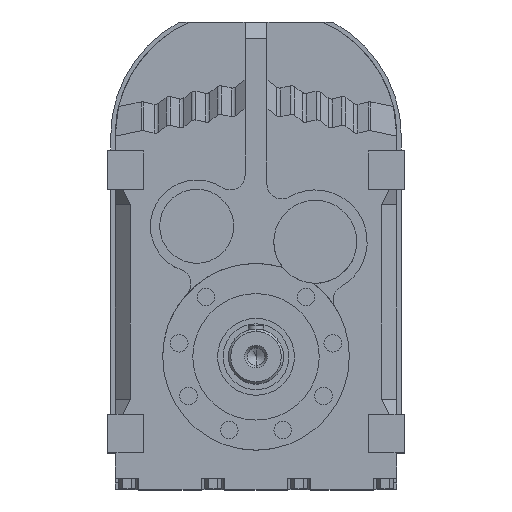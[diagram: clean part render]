
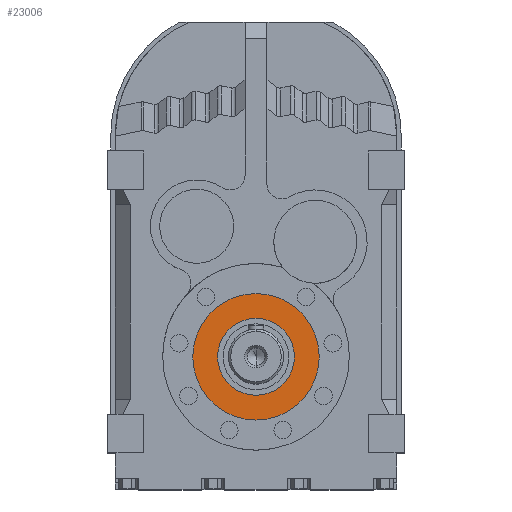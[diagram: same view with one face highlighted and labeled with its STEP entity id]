
A CAD part, top view. The second image highlights one B-rep face of the part: STEP entity #23006.
In plain terms, the highlighted planar face has unit normal (0, 0, 1).
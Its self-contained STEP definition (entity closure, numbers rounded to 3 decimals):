
#14800 = CYLINDRICAL_SURFACE('',#14801,57.6);
#14801 = AXIS2_PLACEMENT_3D('',#14802,#14803,#14804);
#14802 = CARTESIAN_POINT('',(0.,-200.,110.123));
#14803 = DIRECTION('',(0.,0.,1.));
#14804 = DIRECTION('',(1.,0.,0.));
#14826 = CYLINDRICAL_SURFACE('',#14827,57.6);
#14827 = AXIS2_PLACEMENT_3D('',#14828,#14829,#14830);
#14828 = CARTESIAN_POINT('',(0.,-200.,110.123));
#14829 = DIRECTION('',(0.,0.,1.));
#14830 = DIRECTION('',(1.,0.,0.));
#20009 = VERTEX_POINT('',#20010);
#20010 = CARTESIAN_POINT('',(-57.6,-200.,187.5));
#20031 = VERTEX_POINT('',#20032);
#20032 = CARTESIAN_POINT('',(57.6,-200.,187.5));
#20051 = EDGE_CURVE('',#20031,#20009,#20052,.T.);
#20052 = SURFACE_CURVE('',#20053,(#20058,#20064),.PCURVE_S1.);
#20053 = CIRCLE('',#20054,57.6);
#20054 = AXIS2_PLACEMENT_3D('',#20055,#20056,#20057);
#20055 = CARTESIAN_POINT('',(0.,-200.,187.5));
#20056 = DIRECTION('',(0.,0.,1.));
#20057 = DIRECTION('',(1.,0.,0.));
#20058 = PCURVE('',#14800,#20059);
#20059 = DEFINITIONAL_REPRESENTATION('',(#20060),#20063);
#20060 = B_SPLINE_CURVE_WITH_KNOTS('',1,(#20061,#20062),.UNSPECIFIED.,
  .F.,.F.,(2,2),(0.,3.142),.PIECEWISE_BEZIER_KNOTS.);
#20061 = CARTESIAN_POINT('',(0.,77.377));
#20062 = CARTESIAN_POINT('',(3.142,77.377));
#20063 = ( GEOMETRIC_REPRESENTATION_CONTEXT(2) 
PARAMETRIC_REPRESENTATION_CONTEXT() REPRESENTATION_CONTEXT('2D SPACE',''
  ) );
#20064 = PCURVE('',#20065,#20070);
#20065 = PLANE('',#20066);
#20066 = AXIS2_PLACEMENT_3D('',#20067,#20068,#20069);
#20067 = CARTESIAN_POINT('',(0.,-142.4,187.5));
#20068 = DIRECTION('',(0.,0.,1.));
#20069 = DIRECTION('',(1.,0.,0.));
#20070 = DEFINITIONAL_REPRESENTATION('',(#20071),#20075);
#20071 = CIRCLE('',#20072,57.6);
#20072 = AXIS2_PLACEMENT_2D('',#20073,#20074);
#20073 = CARTESIAN_POINT('',(0.,-57.6));
#20074 = DIRECTION('',(1.,0.));
#20075 = ( GEOMETRIC_REPRESENTATION_CONTEXT(2) 
PARAMETRIC_REPRESENTATION_CONTEXT() REPRESENTATION_CONTEXT('2D SPACE',''
  ) );
#20541 = EDGE_CURVE('',#20009,#20031,#20542,.T.);
#20542 = SURFACE_CURVE('',#20543,(#20548,#20554),.PCURVE_S1.);
#20543 = CIRCLE('',#20544,57.6);
#20544 = AXIS2_PLACEMENT_3D('',#20545,#20546,#20547);
#20545 = CARTESIAN_POINT('',(0.,-200.,187.5));
#20546 = DIRECTION('',(0.,0.,1.));
#20547 = DIRECTION('',(1.,0.,0.));
#20548 = PCURVE('',#14826,#20549);
#20549 = DEFINITIONAL_REPRESENTATION('',(#20550),#20553);
#20550 = B_SPLINE_CURVE_WITH_KNOTS('',1,(#20551,#20552),.UNSPECIFIED.,
  .F.,.F.,(2,2),(3.142,6.283),.PIECEWISE_BEZIER_KNOTS.);
#20551 = CARTESIAN_POINT('',(3.142,77.377));
#20552 = CARTESIAN_POINT('',(6.283,77.377));
#20553 = ( GEOMETRIC_REPRESENTATION_CONTEXT(2) 
PARAMETRIC_REPRESENTATION_CONTEXT() REPRESENTATION_CONTEXT('2D SPACE',''
  ) );
#20554 = PCURVE('',#20065,#20555);
#20555 = DEFINITIONAL_REPRESENTATION('',(#20556),#20560);
#20556 = CIRCLE('',#20557,57.6);
#20557 = AXIS2_PLACEMENT_2D('',#20558,#20559);
#20558 = CARTESIAN_POINT('',(0.,-57.6));
#20559 = DIRECTION('',(1.,0.));
#20560 = ( GEOMETRIC_REPRESENTATION_CONTEXT(2) 
PARAMETRIC_REPRESENTATION_CONTEXT() REPRESENTATION_CONTEXT('2D SPACE',''
  ) );
#23006 = ADVANCED_FACE('',(#23007,#23011),#20065,.T.);
#23007 = FACE_BOUND('',#23008,.T.);
#23008 = EDGE_LOOP('',(#23009,#23010));
#23009 = ORIENTED_EDGE('',*,*,#20051,.T.);
#23010 = ORIENTED_EDGE('',*,*,#20541,.T.);
#23011 = FACE_BOUND('',#23012,.T.);
#23012 = EDGE_LOOP('',(#23013,#23043));
#23013 = ORIENTED_EDGE('',*,*,#23014,.F.);
#23014 = EDGE_CURVE('',#23015,#23017,#23019,.T.);
#23015 = VERTEX_POINT('',#23016);
#23016 = CARTESIAN_POINT('',(35.,-200.,187.5));
#23017 = VERTEX_POINT('',#23018);
#23018 = CARTESIAN_POINT('',(-35.,-200.,187.5));
#23019 = SURFACE_CURVE('',#23020,(#23025,#23032),.PCURVE_S1.);
#23020 = CIRCLE('',#23021,35.);
#23021 = AXIS2_PLACEMENT_3D('',#23022,#23023,#23024);
#23022 = CARTESIAN_POINT('',(0.,-200.,187.5));
#23023 = DIRECTION('',(0.,0.,1.));
#23024 = DIRECTION('',(1.,0.,0.));
#23025 = PCURVE('',#20065,#23026);
#23026 = DEFINITIONAL_REPRESENTATION('',(#23027),#23031);
#23027 = CIRCLE('',#23028,35.);
#23028 = AXIS2_PLACEMENT_2D('',#23029,#23030);
#23029 = CARTESIAN_POINT('',(0.,-57.6));
#23030 = DIRECTION('',(1.,0.));
#23031 = ( GEOMETRIC_REPRESENTATION_CONTEXT(2) 
PARAMETRIC_REPRESENTATION_CONTEXT() REPRESENTATION_CONTEXT('2D SPACE',''
  ) );
#23032 = PCURVE('',#23033,#23038);
#23033 = CYLINDRICAL_SURFACE('',#23034,35.);
#23034 = AXIS2_PLACEMENT_3D('',#23035,#23036,#23037);
#23035 = CARTESIAN_POINT('',(0.,-200.,110.123));
#23036 = DIRECTION('',(0.,0.,1.));
#23037 = DIRECTION('',(1.,0.,0.));
#23038 = DEFINITIONAL_REPRESENTATION('',(#23039),#23042);
#23039 = B_SPLINE_CURVE_WITH_KNOTS('',1,(#23040,#23041),.UNSPECIFIED.,
  .F.,.F.,(2,2),(0.,3.142),.PIECEWISE_BEZIER_KNOTS.);
#23040 = CARTESIAN_POINT('',(0.,77.377));
#23041 = CARTESIAN_POINT('',(3.142,77.377));
#23042 = ( GEOMETRIC_REPRESENTATION_CONTEXT(2) 
PARAMETRIC_REPRESENTATION_CONTEXT() REPRESENTATION_CONTEXT('2D SPACE',''
  ) );
#23043 = ORIENTED_EDGE('',*,*,#23044,.F.);
#23044 = EDGE_CURVE('',#23017,#23015,#23045,.T.);
#23045 = SURFACE_CURVE('',#23046,(#23051,#23058),.PCURVE_S1.);
#23046 = CIRCLE('',#23047,35.);
#23047 = AXIS2_PLACEMENT_3D('',#23048,#23049,#23050);
#23048 = CARTESIAN_POINT('',(0.,-200.,187.5));
#23049 = DIRECTION('',(0.,0.,1.));
#23050 = DIRECTION('',(1.,0.,0.));
#23051 = PCURVE('',#20065,#23052);
#23052 = DEFINITIONAL_REPRESENTATION('',(#23053),#23057);
#23053 = CIRCLE('',#23054,35.);
#23054 = AXIS2_PLACEMENT_2D('',#23055,#23056);
#23055 = CARTESIAN_POINT('',(0.,-57.6));
#23056 = DIRECTION('',(1.,0.));
#23057 = ( GEOMETRIC_REPRESENTATION_CONTEXT(2) 
PARAMETRIC_REPRESENTATION_CONTEXT() REPRESENTATION_CONTEXT('2D SPACE',''
  ) );
#23058 = PCURVE('',#23059,#23064);
#23059 = CYLINDRICAL_SURFACE('',#23060,35.);
#23060 = AXIS2_PLACEMENT_3D('',#23061,#23062,#23063);
#23061 = CARTESIAN_POINT('',(0.,-200.,110.123));
#23062 = DIRECTION('',(0.,0.,1.));
#23063 = DIRECTION('',(1.,0.,0.));
#23064 = DEFINITIONAL_REPRESENTATION('',(#23065),#23068);
#23065 = B_SPLINE_CURVE_WITH_KNOTS('',1,(#23066,#23067),.UNSPECIFIED.,
  .F.,.F.,(2,2),(3.142,6.283),.PIECEWISE_BEZIER_KNOTS.);
#23066 = CARTESIAN_POINT('',(3.142,77.377));
#23067 = CARTESIAN_POINT('',(6.283,77.377));
#23068 = ( GEOMETRIC_REPRESENTATION_CONTEXT(2) 
PARAMETRIC_REPRESENTATION_CONTEXT() REPRESENTATION_CONTEXT('2D SPACE',''
  ) );
